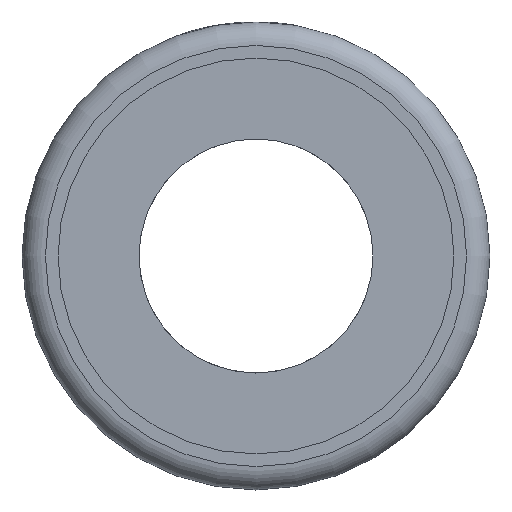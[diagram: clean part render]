
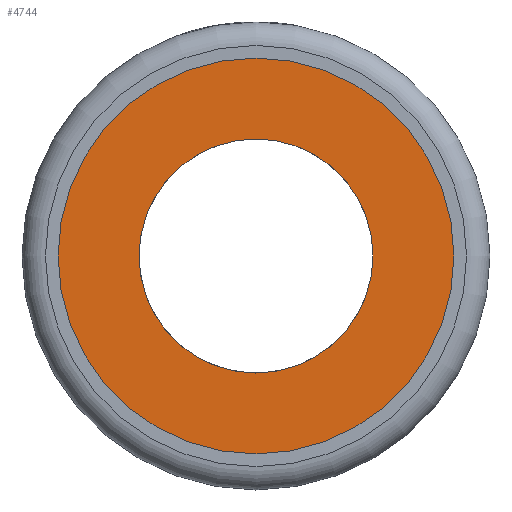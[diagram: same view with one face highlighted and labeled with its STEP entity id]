
A CAD part, left-side view. The second image highlights one B-rep face of the part: STEP entity #4744.
In plain terms, the highlighted planar face has unit normal (-1, 0, 0).
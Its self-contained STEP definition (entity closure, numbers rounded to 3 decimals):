
#1123=ORIENTED_EDGE('',*,*,#2548,.F.);
#1124=ORIENTED_EDGE('',*,*,#2547,.T.);
#2547=EDGE_CURVE('',#3260,#3260,#3742,.T.);
#2548=EDGE_CURVE('',#3261,#3261,#3743,.T.);
#3260=VERTEX_POINT('',#6491);
#3261=VERTEX_POINT('',#6494);
#3742=CIRCLE('',#5051,5.075);
#3743=CIRCLE('',#5053,3.);
#3888=EDGE_LOOP('',(#1123));
#3889=EDGE_LOOP('',(#1124));
#4241=FACE_BOUND('',#3888,.T.);
#4242=FACE_BOUND('',#3889,.T.);
#4591=PLANE('',#5052);
#4744=ADVANCED_FACE('',(#4241,#4242),#4591,.F.);
#5051=AXIS2_PLACEMENT_3D('',#6490,#5405,#5406);
#5052=AXIS2_PLACEMENT_3D('',#6492,#5407,#5408);
#5053=AXIS2_PLACEMENT_3D('',#6493,#5409,#5410);
#5405=DIRECTION('',(-1.,0.,0.));
#5406=DIRECTION('',(0.,0.,1.));
#5407=DIRECTION('',(1.,0.,0.));
#5408=DIRECTION('',(0.,0.,-1.));
#5409=DIRECTION('',(-1.,0.,0.));
#5410=DIRECTION('',(0.,0.,1.));
#6490=CARTESIAN_POINT('',(0.95,0.,0.));
#6491=CARTESIAN_POINT('',(0.95,0.,5.075));
#6492=CARTESIAN_POINT('',(0.95,5.075,0.));
#6493=CARTESIAN_POINT('',(0.95,0.,0.));
#6494=CARTESIAN_POINT('',(0.95,0.,3.));
